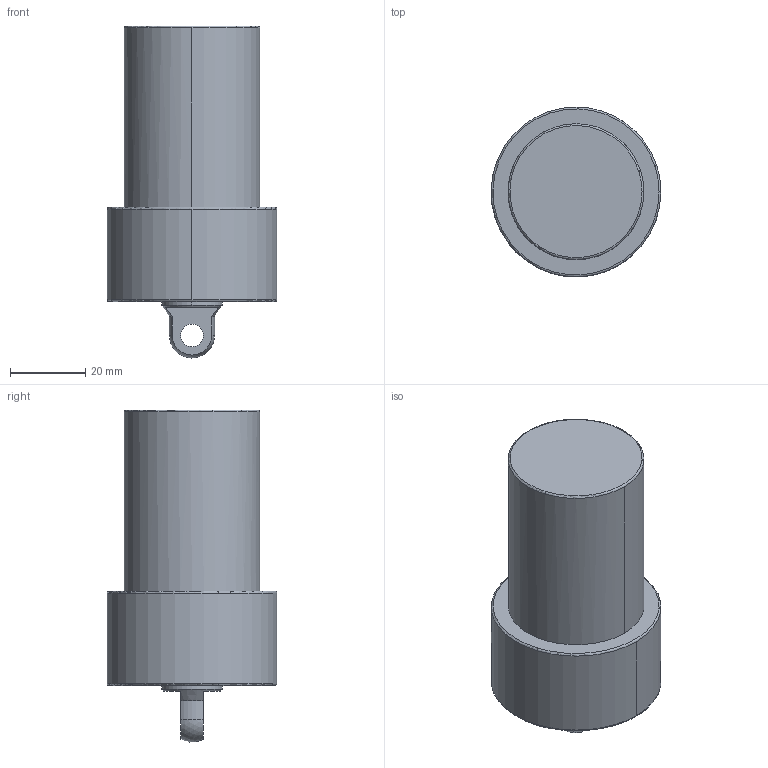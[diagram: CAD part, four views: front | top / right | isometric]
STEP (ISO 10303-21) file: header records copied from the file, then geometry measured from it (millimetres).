
FILE_DESCRIPTION((' '),'2;1');
FILE_NAME( 'TLLU-036GP-040.STEP.stp', '2025-10-24T16:37:09', (' '), ('--- Datakit www.datakit.com---'), ' Datakit CrossCadWare V2024.1 Dec 21 2023', 'Mastercam 2025', ' ');
FILE_SCHEMA(('AUTOMOTIVE_DESIGN { 1 0 10303 214 1 1 1 1 }'));
Length unit declared in the file: millimetre
Products named in the file (1): TLLU-036GP-040
Bounding box: 44.99 x 45 x 87.97 mm (x, y, z)
Volume: 88971 mm3; surface area: 13132.8 mm2
Topology: 1 solids, 1 shells, 56 faces, 159 edges, 105 vertices
Faces by surface type: cylinder 22, cone 18, plane 9, torus 6, sphere 1
Entity records: 1872 total; most frequent: DIRECTION 364, CARTESIAN_POINT 325, ORIENTED_EDGE 302, AXIS2_PLACEMENT_3D 160, EDGE_CURVE 151, VERTEX_POINT 105, CIRCLE 103, EDGE_LOOP 66
